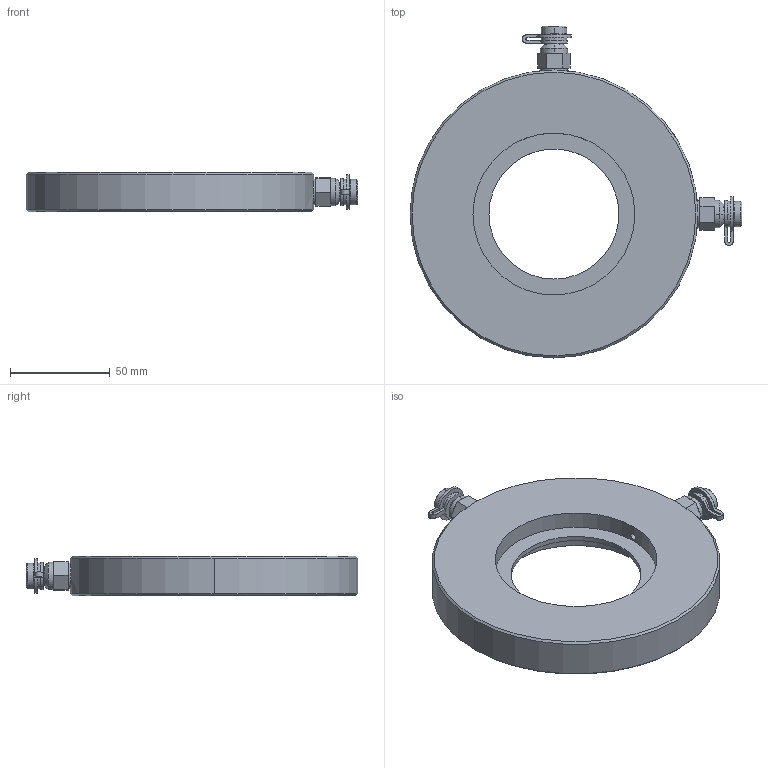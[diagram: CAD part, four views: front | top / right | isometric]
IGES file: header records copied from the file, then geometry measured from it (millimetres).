
Global section: file name: No Iges File Name specified; native system: AutoDesk Inventor R12.0; preprocessor: AutoDesk Inventor Iges Exporter R12.0; date: 20110308.085455; units: millimetre
Bounding box: 166.1 x 166.1 x 20 mm (x, y, z)
Volume: 233203 mm3; surface area: 43003 mm2
Topology: 1 solids, 1 shells, 131 faces, 314 edges, 202 vertices
Faces by surface type: plane 72, cylinder 27, cone 16, revolution 14, bspline 2
